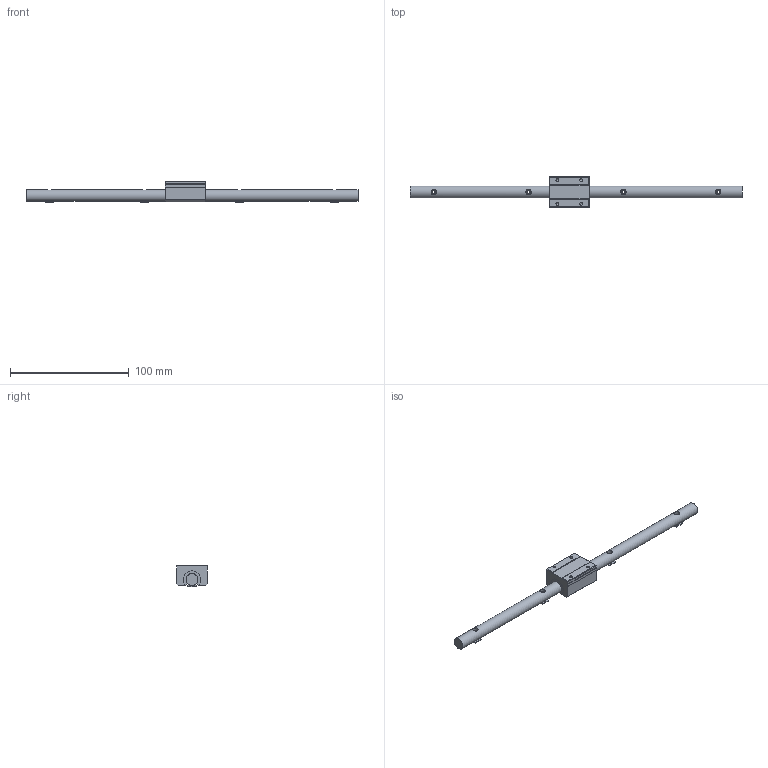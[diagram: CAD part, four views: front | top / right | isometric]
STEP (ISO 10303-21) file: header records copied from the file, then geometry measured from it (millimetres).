
FILE_DESCRIPTION((''),'2;1');
FILE_NAME('D:\製品 (図面)\カタログ用3D\リニアガイド関連\STEP形式\LGR\LGR10.stp','2010-06-02T15:59:20',('Tsuchiya'),(''),'Autodesk Inventor 10','Autodesk Inventor 10','');
FILE_SCHEMA(('AUTOMOTIVE_DESIGN { 1 0 10303 214 1 1 1 1 }'));
Length unit declared in the file: millimetre
Products named in the file (3): LGR10; LGR101; LGR102
Assembly tree (2 placements, depth 2):
  LGR10
    LGR101
    LGR102
Bounding box: 280 x 26 x 18 mm (x, y, z)
Volume: 33576.8 mm3; surface area: 13909.9 mm2
Topology: 2 solids, 2 shells, 108 faces, 276 edges, 185 vertices
Faces by surface type: plane 72, cylinder 17, bspline 17, cone 2
Full cylindrical faces by diameter (mm): 2.3 x4, 2.459 x2, 10 x1
Entity records: 3938 total; most frequent: CARTESIAN_POINT 1438, ORIENTED_EDGE 486, DIRECTION 463, EDGE_CURVE 243, VERTEX_POINT 174, VECTOR 173, LINE 173, EDGE_LOOP 151
